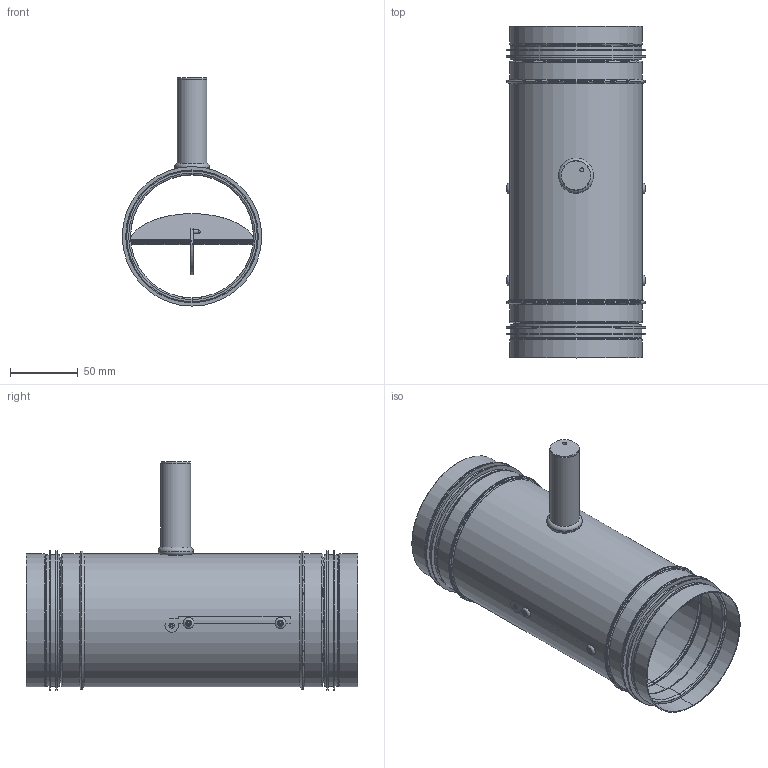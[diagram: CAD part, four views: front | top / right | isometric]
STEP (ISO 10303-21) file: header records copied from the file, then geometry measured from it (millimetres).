
FILE_DESCRIPTION(/* description */ ('540_125x100_VRK-N'),/* implementation_level */ '2;1');
FILE_NAME(/* name */ '233_100_VRK.stp',/* time_stamp */ '2024-06-25T10:45:32+02:00',/* author */ ('bonsen'),/* organization */ ('Aerotechnik E. Siegwart GmbH'),/* preprocessor_version */ 'ST-DEVELOPER v20',/* originating_system */ 'Autodesk Inventor 2024',/* authorisation */ '');
FILE_SCHEMA (('AUTOMOTIVE_DESIGN { 1 0 10303 214 3 1 1 }'));
Length unit declared in the file: millimetre
Products named in the file (5): 540_125x100_VRK-N; Rohrkörper; Daempferplatte; Verstelleinheit; Lippengummi
Assembly tree (5 placements, depth 2):
  540_125x100_VRK-N
    Rohrkörper
    Daempferplatte
    Verstelleinheit
    Lippengummi  x2
Bounding box: 103 x 245 x 168.5 mm (x, y, z)
Volume: 104456.8 mm3; surface area: 220116.7 mm2
Topology: 7 solids, 7 shells, 258 faces, 536 edges, 300 vertices
Faces by surface type: plane 151, cylinder 62, torus 42, bspline 2, cone 1
Full cylindrical faces by diameter (mm): 2 x5, 3 x2, 4 x2, 8 x4, 21.5 x1, 22 x1, 26 x1, 90.74 x2, 92 x2, 93 x2, 96.74 x5, 97 x6, 98 x5, 100.74 x2, 102 x2, 103 x4
Entity records: 6810 total; most frequent: DIRECTION 1264, CARTESIAN_POINT 1191, ORIENTED_EDGE 1036, EDGE_CURVE 518, AXIS2_PLACEMENT_3D 502, VERTEX_POINT 288, EDGE_LOOP 264, LINE 260
